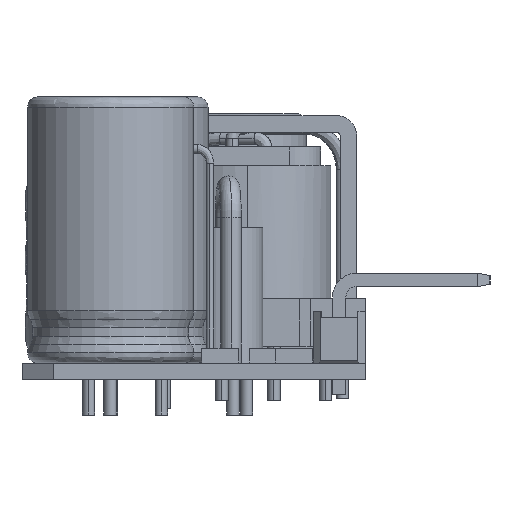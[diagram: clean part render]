
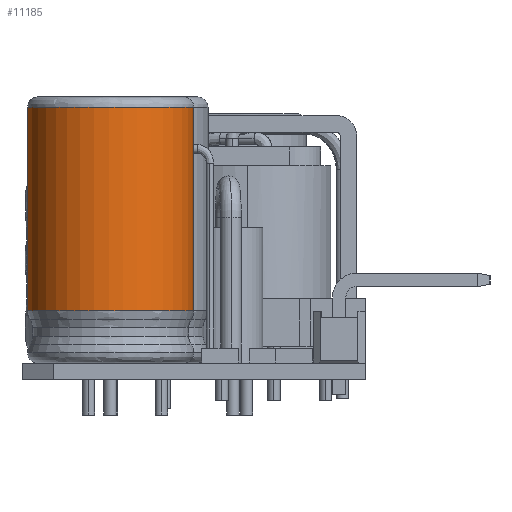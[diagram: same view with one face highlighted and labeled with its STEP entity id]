
A CAD part, left-side view. The second image highlights one B-rep face of the part: STEP entity #11185.
In plain terms, the highlighted cylindrical face has radius 4 mm (diameter 8 mm), a partial arc.
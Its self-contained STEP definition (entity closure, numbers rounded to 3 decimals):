
#436 = DIRECTION ( 'NONE',  ( 0., 0., -1. ) ) ;
#495 = EDGE_CURVE ( 'NONE', #22793, #19479, #3079, .T. ) ;
#1563 = FACE_OUTER_BOUND ( 'NONE', #3842, .T. ) ;
#2028 = VERTEX_POINT ( 'NONE', #17757 ) ;
#2236 = CARTESIAN_POINT ( 'NONE',  ( -13.517, -0.66, 12.3 ) ) ;
#3079 = LINE ( 'NONE', #23424, #11990 ) ;
#3842 = EDGE_LOOP ( 'NONE', ( #11635, #12290, #9070, #4015 ) ) ;
#4015 = ORIENTED_EDGE ( 'NONE', *, *, #17032, .T. ) ;
#4760 = VECTOR ( 'NONE', #20563, 1000. ) ;
#6076 = DIRECTION ( 'NONE',  ( 0., 0., 1. ) ) ;
#6226 = CARTESIAN_POINT ( 'NONE',  ( -13.429, 3.339, 12.3 ) ) ;
#7128 = CARTESIAN_POINT ( 'NONE',  ( -13.429, 3.339, 2.512 ) ) ;
#7323 = VERTEX_POINT ( 'NONE', #9008 ) ;
#7698 = DIRECTION ( 'NONE',  ( 0., 0., -1. ) ) ;
#9008 = CARTESIAN_POINT ( 'NONE',  ( -13.606, -4.659, 12.3 ) ) ;
#9070 = ORIENTED_EDGE ( 'NONE', *, *, #495, .T. ) ;
#9216 = DIRECTION ( 'NONE',  ( 0., 0., -1. ) ) ;
#9602 = EDGE_CURVE ( 'NONE', #7323, #2028, #10665, .T. ) ;
#9760 = CIRCLE ( 'NONE', #13816, 4. ) ;
#10665 = LINE ( 'NONE', #11179, #4760 ) ;
#10787 = DIRECTION ( 'NONE',  ( 0.022, 1., 0. ) ) ;
#11179 = CARTESIAN_POINT ( 'NONE',  ( -13.606, -4.659, 12.8 ) ) ;
#11185 = ADVANCED_FACE ( 'NONE', ( #1563 ), #17545, .T. ) ;
#11635 = ORIENTED_EDGE ( 'NONE', *, *, #9602, .F. ) ;
#11778 = DIRECTION ( 'NONE',  ( 0.022, 1., 0. ) ) ;
#11990 = VECTOR ( 'NONE', #436, 1000. ) ;
#12290 = ORIENTED_EDGE ( 'NONE', *, *, #21314, .T. ) ;
#13816 = AXIS2_PLACEMENT_3D ( 'NONE', #2236, #7698, #11778 ) ;
#14243 = CIRCLE ( 'NONE', #18969, 4. ) ;
#16723 = CARTESIAN_POINT ( 'NONE',  ( -13.517, -0.66, 12.8 ) ) ;
#17032 = EDGE_CURVE ( 'NONE', #19479, #2028, #14243, .T. ) ;
#17303 = AXIS2_PLACEMENT_3D ( 'NONE', #16723, #9216, #10787 ) ;
#17545 = CYLINDRICAL_SURFACE ( 'NONE', #17303, 4. ) ;
#17715 = DIRECTION ( 'NONE',  ( 0.022, 1., 0. ) ) ;
#17757 = CARTESIAN_POINT ( 'NONE',  ( -13.606, -4.659, 2.512 ) ) ;
#18969 = AXIS2_PLACEMENT_3D ( 'NONE', #21203, #6076, #17715 ) ;
#19479 = VERTEX_POINT ( 'NONE', #7128 ) ;
#20563 = DIRECTION ( 'NONE',  ( 0., 0., -1. ) ) ;
#21203 = CARTESIAN_POINT ( 'NONE',  ( -13.517, -0.66, 2.512 ) ) ;
#21314 = EDGE_CURVE ( 'NONE', #7323, #22793, #9760, .T. ) ;
#22793 = VERTEX_POINT ( 'NONE', #6226 ) ;
#23424 = CARTESIAN_POINT ( 'NONE',  ( -13.429, 3.339, 12.8 ) ) ;
